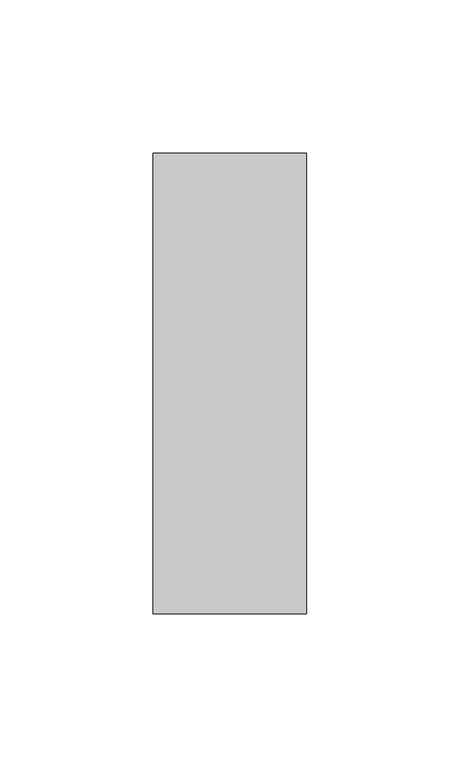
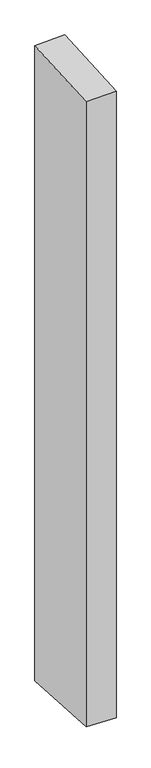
"""IFC4 building model written with IfcOpenShell, lengths in millimetres: member geometry, Прямоугольный импост : 50 x 150 мм."""

from ifc_helpers import new_model, si_unit, origin, place, context, project, spatial, faceted_brep, source, transform, mapped, element, save


def member_7290c5fc(model_context):
    return source(origin(), model_context, "Body", "Brep", [
        faceted_brep([(-25.0, 75.0, 3.6506406), (25.0, 75.0, 5.4664028), (25.0, 75.0, -1128.8334296), (-25.0, 75.0, -1127.0429252), (-25.0, -75.0, -5.4664028), (-25.0, -75.0, -1117.2106221), (25.0, -75.0, -3.6506406), (25.0, -75.0, -1119.0011265)], [[[0, 1, 2, 3]], [[4, 0, 3, 5]], [[6, 4, 5, 7]], [[1, 6, 7, 2]], [[1, 0, 4, 6]], [[2, 7, 5, 3]]]),
    ])


if __name__ == "__main__":
    model = new_model("IFC4")
    model_context = context("Model", 3, world=origin())
    ifc_project = project(units=[si_unit("LENGTHUNIT", "METRE", prefix="MILLI")], contexts=[model_context])
    site = spatial("IfcSite", under=ifc_project)
    building = spatial("IfcBuilding", under=site)
    placement = place(None, origin())
    member_shape = member_7290c5fc(model_context)
    element("IfcMember", 1, ObjectType="Прямоугольный импост : 50 x 150 мм", at=placement, inside=building, context=model_context, shape_type="MappedRepresentation", body=[
        mapped(member_shape, transform((0.0, 0.0, 0.0), x_axis=(1.0, 0.0, 0.0), y_axis=(0.0, 1.0, 0.0), z_axis=(0.0, 0.0, 1.0))),
    ])
    save(model, "model.ifc")
